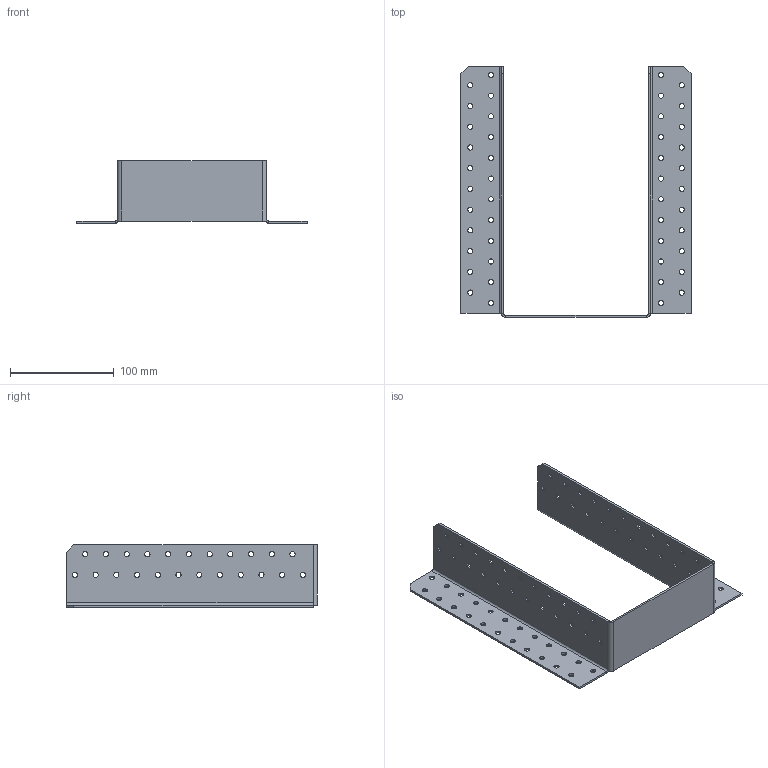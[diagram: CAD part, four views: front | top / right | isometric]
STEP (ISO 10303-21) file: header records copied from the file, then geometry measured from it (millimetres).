
FILE_DESCRIPTION (( 'STEP AP203' ), '1' );
FILE_NAME ('405092.STEP', '2021-04-17T16:49:06', ( '' ), ( '' ), 'SwSTEP 2.0', 'SolidWorks 2013', '' );
FILE_SCHEMA (( 'CONFIG_CONTROL_DESIGN' ));
Length unit declared in the file: millimetre
Products named in the file (1): 405092
Bounding box: 222 x 242 x 60 mm (x, y, z)
Volume: 106082.6 mm3; surface area: 111976.9 mm2
Topology: 1 solids, 1 shells, 228 faces, 648 edges, 422 vertices
Faces by surface type: cylinder 192, plane 36
Entity records: 8043 total; most frequent: DIRECTION 1492, CARTESIAN_POINT 1299, ORIENTED_EDGE 1296, EDGE_CURVE 648, AXIS2_PLACEMENT_3D 615, VERTEX_POINT 422, EDGE_LOOP 412, CIRCLE 386
